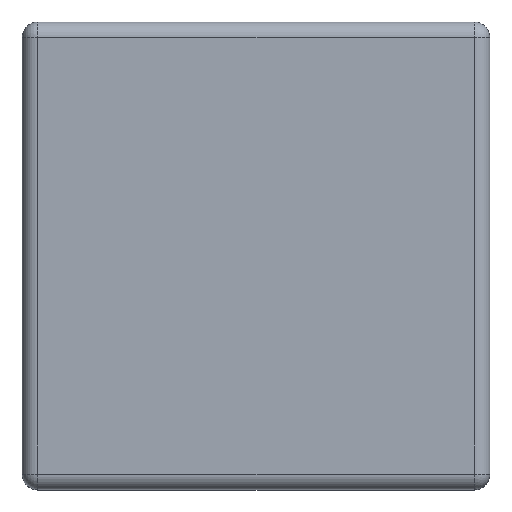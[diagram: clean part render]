
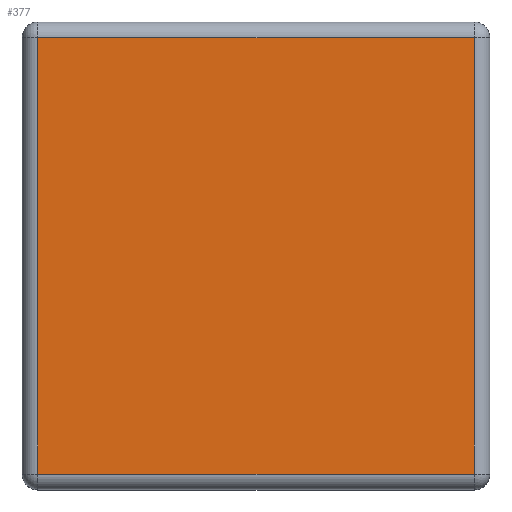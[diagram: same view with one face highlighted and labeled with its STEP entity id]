
A CAD part, top view. The second image highlights one B-rep face of the part: STEP entity #377.
In plain terms, the highlighted planar face has unit normal (0, 0, 1).
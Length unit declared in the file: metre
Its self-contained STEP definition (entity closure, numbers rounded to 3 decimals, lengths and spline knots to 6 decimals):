
#13=PLANE('',#597);
#32=LINE('',#762,#56);
#35=LINE('',#769,#59);
#44=LINE('',#807,#68);
#47=LINE('',#813,#71);
#56=VECTOR('',#640,1.);
#59=VECTOR('',#647,1.);
#68=VECTOR('',#696,1.);
#71=VECTOR('',#703,1.);
#150=ORIENTED_EDGE('',*,*,#185,.T.);
#151=ORIENTED_EDGE('',*,*,#209,.T.);
#152=ORIENTED_EDGE('',*,*,#213,.T.);
#153=ORIENTED_EDGE('',*,*,#189,.T.);
#185=EDGE_CURVE('',#223,#229,#32,.T.);
#189=EDGE_CURVE('',#230,#223,#35,.T.);
#209=EDGE_CURVE('',#229,#240,#44,.T.);
#213=EDGE_CURVE('',#240,#230,#47,.T.);
#223=VERTEX_POINT('',#744);
#229=VERTEX_POINT('',#761);
#230=VERTEX_POINT('',#766);
#240=VERTEX_POINT('',#806);
#287=EDGE_LOOP('',(#150,#151,#152,#153));
#313=FACE_BOUND('',#287,.T.);
#377=ADVANCED_FACE('',(#313),#13,.T.);
#597=AXIS2_PLACEMENT_3D('',#822,#718,#719);
#640=DIRECTION('',(1.,0.,0.));
#647=DIRECTION('',(0.,-1.,0.));
#696=DIRECTION('',(0.,1.,0.));
#703=DIRECTION('',(-1.,0.,0.));
#718=DIRECTION('',(0.,0.,1.));
#719=DIRECTION('',(0.,-1.,0.));
#744=CARTESIAN_POINT('',(-0.138358,-0.036486,0.0079));
#761=CARTESIAN_POINT('',(-0.138078,-0.036486,0.0079));
#762=CARTESIAN_POINT('',(-0.138068,-0.036486,0.0079));
#766=CARTESIAN_POINT('',(-0.138358,-0.036206,0.0079));
#769=CARTESIAN_POINT('',(-0.138358,-0.036496,0.0079));
#806=CARTESIAN_POINT('',(-0.138078,-0.036206,0.0079));
#807=CARTESIAN_POINT('',(-0.138078,-0.036196,0.0079));
#813=CARTESIAN_POINT('',(-0.138368,-0.036206,0.0079));
#822=CARTESIAN_POINT('',(-0.138218,-0.036346,0.0079));
